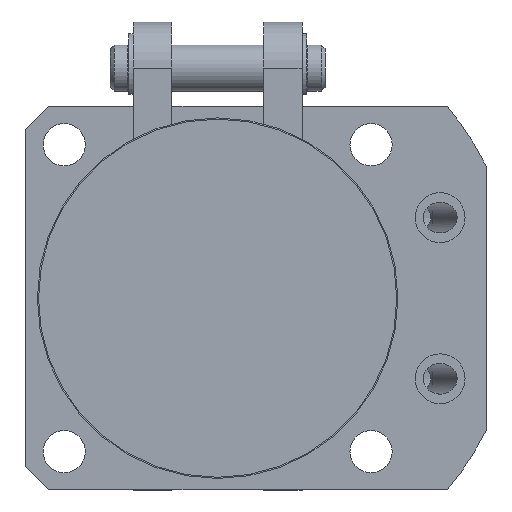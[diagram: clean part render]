
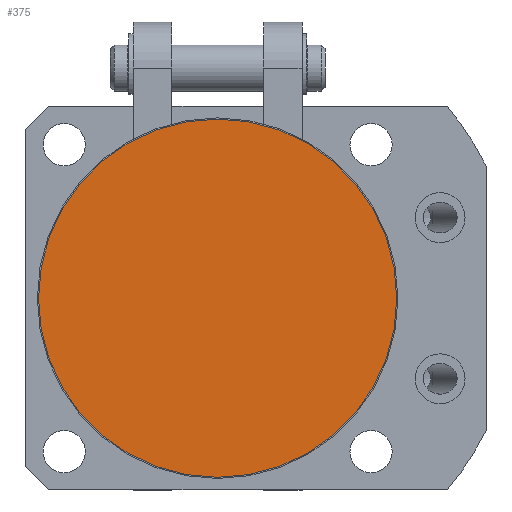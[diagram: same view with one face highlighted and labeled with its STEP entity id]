
A CAD part, front view. The second image highlights one B-rep face of the part: STEP entity #375.
In plain terms, the highlighted planar face has unit normal (0, -1, 0).
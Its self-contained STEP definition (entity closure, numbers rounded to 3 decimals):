
#375 = ADVANCED_FACE( '', ( #721 ), #722, .T. );
#721 = FACE_OUTER_BOUND( '', #1377, .T. );
#722 = PLANE( '', #1378 );
#1377 = EDGE_LOOP( '', ( #2270 ) );
#1378 = AXIS2_PLACEMENT_3D( '', #2271, #2272, #2273 );
#2270 = ORIENTED_EDGE( '', *, *, #4176, .T. );
#2271 = CARTESIAN_POINT( '', ( 0., -47., 0. ) );
#2272 = DIRECTION( '', ( 0., -1., 0. ) );
#2273 = DIRECTION( '', ( 1., 0., 0. ) );
#4176 = EDGE_CURVE( '', #4958, #4958, #4959, .T. );
#4958 = VERTEX_POINT( '', #6359 );
#4959 = CIRCLE( '', #6360, 23.35 );
#6359 = CARTESIAN_POINT( '', ( -23.35, -47., 0. ) );
#6360 = AXIS2_PLACEMENT_3D( '', #7677, #7678, #7679 );
#7677 = CARTESIAN_POINT( '', ( 0., -47., 0. ) );
#7678 = DIRECTION( '', ( 0., -1., 0. ) );
#7679 = DIRECTION( '', ( -1., 0., 0. ) );
